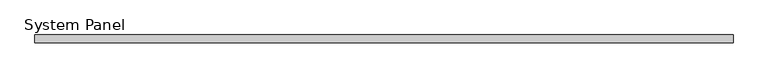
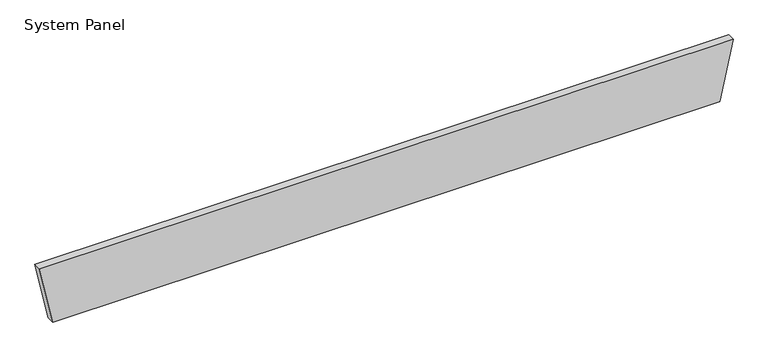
"""IFC4 building model written with IfcOpenShell, lengths in millimetres: plate geometry, System Panel : Equitilt_150mm_Plain_Surfmist."""

from ifc_helpers import new_model, si_unit, frame, origin, place, context, project, spatial, polyline, outline, extrude, source, transform, mapped, element, save


def system_panel_ce2c7b31(model_context):
    return source(origin(), model_context, "Body", "SweptSolid", [
        extrude(outline(polyline([(0.0, -6521.7433237), (0.0, 6521.7433237), (1200.0, 6782.6149856), (1200.0, -6782.6149856), (0.0, -6521.7433237)])), frame((0.0, -150.0, 0.0), z_axis=(0.0, 1.0, 0.0), x_axis=(0.0, 0.0, 1.0)), (0.0, 0.0, 1.0), 150.0),
    ])


if __name__ == "__main__":
    model = new_model("IFC4")
    model_context = context("Model", 3, world=origin())
    ifc_project = project(units=[si_unit("LENGTHUNIT", "METRE", prefix="MILLI")], contexts=[model_context])
    site = spatial("IfcSite", under=ifc_project)
    building = spatial("IfcBuilding", under=site)
    placement = place(None, origin())
    system_panel_shape = system_panel_ce2c7b31(model_context)
    element("IfcPlate", 1, ObjectType="System Panel : Equitilt_150mm_Plain_Surfmist", at=placement, inside=building, context=model_context, shape_type="MappedRepresentation", body=[
        mapped(system_panel_shape, transform((0.0, 0.0, 0.0), x_axis=(1.0, 0.0, 0.0), y_axis=(0.0, 1.0, 0.0), z_axis=(0.0, 0.0, 1.0))),
    ])
    save(model, "model.ifc")
